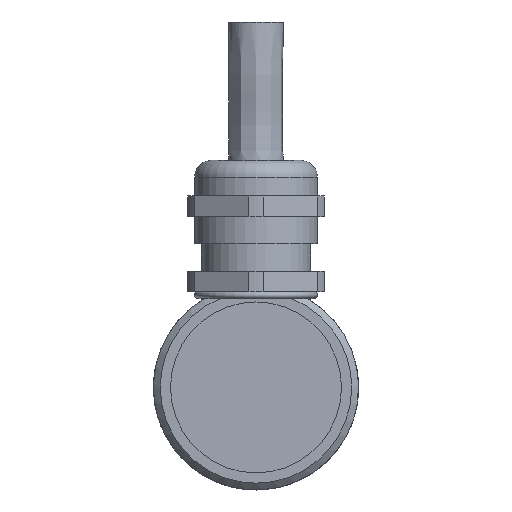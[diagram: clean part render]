
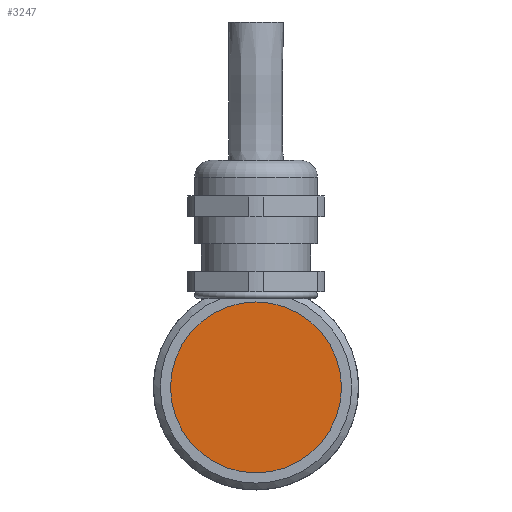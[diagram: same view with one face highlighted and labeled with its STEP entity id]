
A CAD part, left-side view. The second image highlights one B-rep face of the part: STEP entity #3247.
In plain terms, the highlighted planar face has unit normal (-1, 0, 0).
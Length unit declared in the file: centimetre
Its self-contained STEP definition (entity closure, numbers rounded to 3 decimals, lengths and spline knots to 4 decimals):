
#758=CIRCLE('',#3438,1.25);
#921=VERTEX_POINT('',#4692);
#1731=EDGE_CURVE('',#921,#921,#758,.T.);
#2277=ORIENTED_EDGE('',*,*,#1731,.T.);
#2874=EDGE_LOOP('',(#2277));
#3063=FACE_BOUND('',#2874,.T.);
#3247=ADVANCED_FACE('',(#3063),#6504,.T.);
#3438=AXIS2_PLACEMENT_3D('',#4691,#3806,#3807);
#3440=AXIS2_PLACEMENT_3D('',#4695,#3810,$);
#3806=DIRECTION('',(-1.,0.,0.));
#3807=DIRECTION('',(0.,0.,1.25));
#3810=DIRECTION('',(-1.,0.,0.));
#4691=CARTESIAN_POINT('',(0.1,0.,0.));
#4692=CARTESIAN_POINT('',(0.1,0.,1.25));
#4695=CARTESIAN_POINT('',(0.1,0.,0.));
#6504=PLANE('',#3440);
